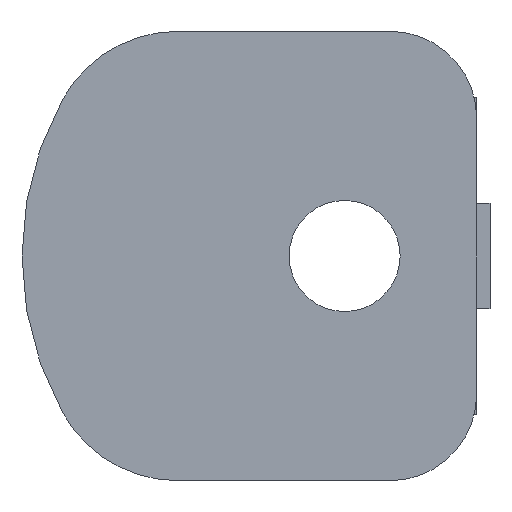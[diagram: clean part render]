
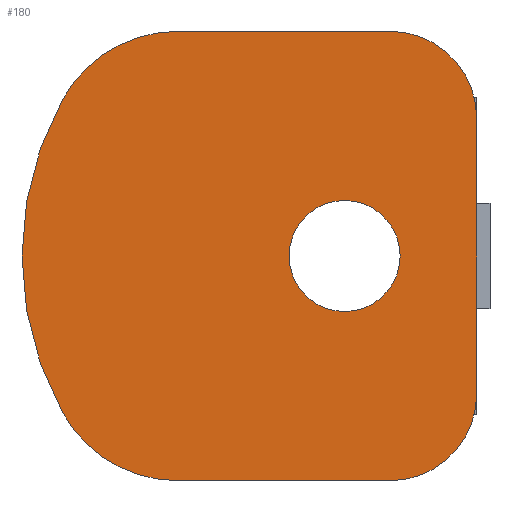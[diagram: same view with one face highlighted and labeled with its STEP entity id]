
A CAD part, front view. The second image highlights one B-rep face of the part: STEP entity #180.
In plain terms, the highlighted planar face has unit normal (0, -1, 0).
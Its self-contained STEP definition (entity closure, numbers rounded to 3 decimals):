
#90 = EDGE_CURVE ( 'NONE', #177, #91, #503, .T. ) ;
#91 = VERTEX_POINT ( 'NONE', #499 ) ;
#92 = ORIENTED_EDGE ( 'NONE', *, *, #93, .T. ) ;
#93 = EDGE_CURVE ( 'NONE', #91, #94, #498, .T. ) ;
#94 = VERTEX_POINT ( 'NONE', #493 ) ;
#95 = ORIENTED_EDGE ( 'NONE', *, *, #96, .T. ) ;
#96 = EDGE_CURVE ( 'NONE', #94, #97, #492, .T. ) ;
#97 = VERTEX_POINT ( 'NONE', #488 ) ;
#98 = ORIENTED_EDGE ( 'NONE', *, *, #99, .T. ) ;
#99 = EDGE_CURVE ( 'NONE', #97, #169, #487, .T. ) ;
#103 = ORIENTED_EDGE ( 'NONE', *, *, #104, .T. ) ;
#104 = EDGE_CURVE ( 'NONE', #176, #177, #474, .T. ) ;
#105 = ORIENTED_EDGE ( 'NONE', *, *, #90, .T. ) ;
#113 = EDGE_CURVE ( 'NONE', #114, #165, #521, .T. ) ;
#114 = VERTEX_POINT ( 'NONE', #516 ) ;
#116 = EDGE_LOOP ( 'NONE', ( #117, #118 ) ) ;
#117 = ORIENTED_EDGE ( 'NONE', *, *, #113, .T. ) ;
#118 = ORIENTED_EDGE ( 'NONE', *, *, #119, .T. ) ;
#119 = EDGE_CURVE ( 'NONE', #165, #114, #515, .T. ) ;
#165 = VERTEX_POINT ( 'NONE', #626 ) ;
#167 = ORIENTED_EDGE ( 'NONE', *, *, #168, .T. ) ;
#168 = EDGE_CURVE ( 'NONE', #169, #170, #625, .T. ) ;
#169 = VERTEX_POINT ( 'NONE', #621 ) ;
#170 = VERTEX_POINT ( 'NONE', #620 ) ;
#171 = ORIENTED_EDGE ( 'NONE', *, *, #172, .T. ) ;
#172 = EDGE_CURVE ( 'NONE', #170, #173, #619, .T. ) ;
#173 = VERTEX_POINT ( 'NONE', #614 ) ;
#174 = ORIENTED_EDGE ( 'NONE', *, *, #175, .T. ) ;
#175 = EDGE_CURVE ( 'NONE', #173, #176, #613, .T. ) ;
#176 = VERTEX_POINT ( 'NONE', #608 ) ;
#177 = VERTEX_POINT ( 'NONE', #607 ) ;
#180 = ADVANCED_FACE ( 'NONE', ( #606, #665 ), #664, .T. ) ;
#181 = EDGE_LOOP ( 'NONE', ( #167, #171, #174, #103, #105, #92, #95, #98 ) ) ;
#473 = AXIS2_PLACEMENT_3D ( 'NONE', #535, #534, #533 ) ;
#474 = CIRCLE ( 'NONE', #473, 5. ) ;
#483 = DIRECTION ( 'NONE',  ( 0., 0., -1. ) ) ;
#484 = DIRECTION ( 'NONE',  ( 0., -1., 0. ) ) ;
#485 = CARTESIAN_POINT ( 'NONE',  ( 1.7, -0.3, 5.2 ) ) ;
#486 = AXIS2_PLACEMENT_3D ( 'NONE', #485, #484, #483 ) ;
#487 = CIRCLE ( 'NONE', #486, 3.3 ) ;
#488 = CARTESIAN_POINT ( 'NONE',  ( 5., -0.3, 5.2 ) ) ;
#489 = DIRECTION ( 'NONE',  ( 0., 0., 1. ) ) ;
#490 = VECTOR ( 'NONE', #489, 1000. ) ;
#491 = CARTESIAN_POINT ( 'NONE',  ( 5., -0.3, 8.5 ) ) ;
#492 = LINE ( 'NONE', #491, #490 ) ;
#493 = CARTESIAN_POINT ( 'NONE',  ( 5., -0.3, -5.2 ) ) ;
#494 = DIRECTION ( 'NONE',  ( 0., 0., -1. ) ) ;
#495 = DIRECTION ( 'NONE',  ( 0., -1., 0. ) ) ;
#496 = CARTESIAN_POINT ( 'NONE',  ( 1.7, -0.3, -5.2 ) ) ;
#497 = AXIS2_PLACEMENT_3D ( 'NONE', #496, #495, #494 ) ;
#498 = CIRCLE ( 'NONE', #497, 3.3 ) ;
#499 = CARTESIAN_POINT ( 'NONE',  ( 1.7, -0.3, -8.5 ) ) ;
#500 = DIRECTION ( 'NONE',  ( 1., 0., 0. ) ) ;
#501 = VECTOR ( 'NONE', #500, 1000. ) ;
#502 = CARTESIAN_POINT ( 'NONE',  ( 5., -0.3, -8.5 ) ) ;
#503 = LINE ( 'NONE', #502, #501 ) ;
#511 = DIRECTION ( 'NONE',  ( 0., 0., 1. ) ) ;
#512 = DIRECTION ( 'NONE',  ( 0., 1., 0. ) ) ;
#513 = CARTESIAN_POINT ( 'NONE',  ( 0., -0.3, 0. ) ) ;
#514 = AXIS2_PLACEMENT_3D ( 'NONE', #513, #512, #511 ) ;
#515 = CIRCLE ( 'NONE', #514, 2.1 ) ;
#516 = CARTESIAN_POINT ( 'NONE',  ( 0., -0.3, -2.1 ) ) ;
#517 = DIRECTION ( 'NONE',  ( 0., 0., 1. ) ) ;
#518 = DIRECTION ( 'NONE',  ( 0., 1., 0. ) ) ;
#519 = CARTESIAN_POINT ( 'NONE',  ( 0., -0.3, 0. ) ) ;
#520 = AXIS2_PLACEMENT_3D ( 'NONE', #519, #518, #517 ) ;
#521 = CIRCLE ( 'NONE', #520, 2.1 ) ;
#533 = DIRECTION ( 'NONE',  ( 0., 0., -1. ) ) ;
#534 = DIRECTION ( 'NONE',  ( 0., -1., 0. ) ) ;
#535 = CARTESIAN_POINT ( 'NONE',  ( -6.292, -0.3, -3.5 ) ) ;
#606 = FACE_OUTER_BOUND ( 'NONE', #181, .T. ) ;
#607 = CARTESIAN_POINT ( 'NONE',  ( -6.292, -0.3, -8.5 ) ) ;
#608 = CARTESIAN_POINT ( 'NONE',  ( -10.662, -0.3, -5.931 ) ) ;
#609 = DIRECTION ( 'NONE',  ( 0., 0., -1. ) ) ;
#610 = DIRECTION ( 'NONE',  ( 0., -1., 0. ) ) ;
#611 = CARTESIAN_POINT ( 'NONE',  ( 0., -0.3, 0. ) ) ;
#612 = AXIS2_PLACEMENT_3D ( 'NONE', #611, #610, #609 ) ;
#613 = CIRCLE ( 'NONE', #612, 12.2 ) ;
#614 = CARTESIAN_POINT ( 'NONE',  ( -10.662, -0.3, 5.931 ) ) ;
#615 = DIRECTION ( 'NONE',  ( 0., 0., -1. ) ) ;
#616 = DIRECTION ( 'NONE',  ( 0., -1., 0. ) ) ;
#617 = CARTESIAN_POINT ( 'NONE',  ( -6.292, -0.3, 3.5 ) ) ;
#618 = AXIS2_PLACEMENT_3D ( 'NONE', #617, #616, #615 ) ;
#619 = CIRCLE ( 'NONE', #618, 5. ) ;
#620 = CARTESIAN_POINT ( 'NONE',  ( -6.292, -0.3, 8.5 ) ) ;
#621 = CARTESIAN_POINT ( 'NONE',  ( 1.7, -0.3, 8.5 ) ) ;
#622 = DIRECTION ( 'NONE',  ( -1., 0., 0. ) ) ;
#623 = VECTOR ( 'NONE', #622, 1000. ) ;
#624 = CARTESIAN_POINT ( 'NONE',  ( 5., -0.3, 8.5 ) ) ;
#625 = LINE ( 'NONE', #624, #623 ) ;
#626 = CARTESIAN_POINT ( 'NONE',  ( 0., -0.3, 2.1 ) ) ;
#660 = DIRECTION ( 'NONE',  ( 0., 0., -1. ) ) ;
#661 = DIRECTION ( 'NONE',  ( 0., -1., 0. ) ) ;
#662 = CARTESIAN_POINT ( 'NONE',  ( 0., -0.3, 0. ) ) ;
#663 = AXIS2_PLACEMENT_3D ( 'NONE', #662, #661, #660 ) ;
#664 = PLANE ( 'NONE',  #663 ) ;
#665 = FACE_BOUND ( 'NONE', #116, .T. ) ;
